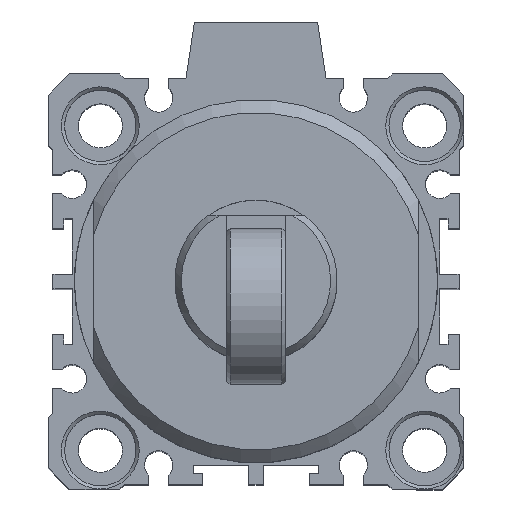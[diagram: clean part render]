
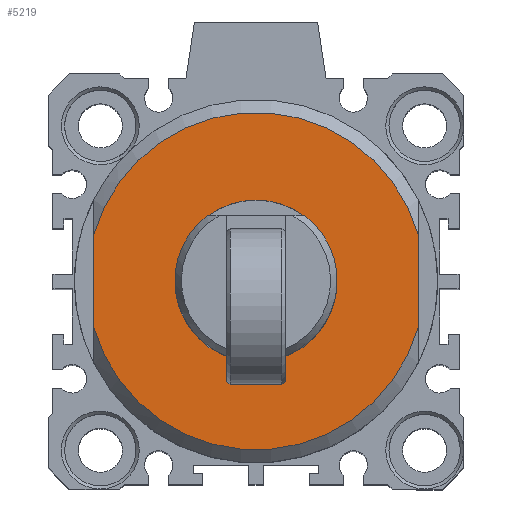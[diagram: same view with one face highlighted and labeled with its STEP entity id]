
A CAD part, top view. The second image highlights one B-rep face of the part: STEP entity #5219.
In plain terms, the highlighted planar face has unit normal (0, 0, 1).
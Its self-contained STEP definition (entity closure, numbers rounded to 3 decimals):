
#330=CARTESIAN_POINT('',(-14.557,11.794,112.));
#331=VERTEX_POINT('',#330);
#338=CARTESIAN_POINT('',(0.443,11.794,112.));
#339=VERTEX_POINT('',#338);
#340=CARTESIAN_POINT('',(-7.057,1.794,112.));
#341=DIRECTION('',(0.0,0.0,-1.0));
#342=DIRECTION('',(0.0,1.0,0.0));
#343=AXIS2_PLACEMENT_3D('',#340,#341,#342);
#344=CIRCLE('',#343,12.5);
#345=EDGE_CURVE('',#339,#331,#344,.T.);
#5168=CARTESIAN_POINT('',(-7.057,22.044,112.));
#5169=DIRECTION('',(0.0,0.0,1.0));
#5170=DIRECTION('',(1.0,0.0,0.0));
#5171=AXIS2_PLACEMENT_3D('',#5168,#5169,#5170);
#5172=PLANE('',#5171);
#5173=CARTESIAN_POINT('',(-32.057,8.936,112.));
#5174=VERTEX_POINT('',#5173);
#5175=CARTESIAN_POINT('',(17.943,8.936,112.));
#5176=VERTEX_POINT('',#5175);
#5177=CARTESIAN_POINT('',(-7.057,1.794,112.));
#5178=DIRECTION('',(0.0,0.0,-1.0));
#5179=DIRECTION('',(0.0,1.0,0.0));
#5180=AXIS2_PLACEMENT_3D('',#5177,#5178,#5179);
#5181=CIRCLE('',#5180,26.);
#5182=EDGE_CURVE('',#5174,#5176,#5181,.T.);
#5183=ORIENTED_EDGE('',*,*,#5182,.F.);
#5184=CARTESIAN_POINT('',(-32.057,-5.347,112.));
#5185=VERTEX_POINT('',#5184);
#5186=CARTESIAN_POINT('',(-32.057,8.936,112.));
#5187=DIRECTION('',(0.0,-1.0,0.0));
#5188=VECTOR('',#5187,14.283);
#5189=LINE('',#5186,#5188);
#5190=EDGE_CURVE('',#5174,#5185,#5189,.T.);
#5191=ORIENTED_EDGE('',*,*,#5190,.T.);
#5192=CARTESIAN_POINT('',(17.943,-5.347,112.));
#5193=VERTEX_POINT('',#5192);
#5194=CARTESIAN_POINT('',(-7.057,1.794,112.));
#5195=DIRECTION('',(0.0,0.0,-1.0));
#5196=DIRECTION('',(0.0,-1.0,0.0));
#5197=AXIS2_PLACEMENT_3D('',#5194,#5195,#5196);
#5198=CIRCLE('',#5197,26.);
#5199=EDGE_CURVE('',#5193,#5185,#5198,.T.);
#5200=ORIENTED_EDGE('',*,*,#5199,.F.);
#5201=CARTESIAN_POINT('',(17.943,-5.347,112.));
#5202=DIRECTION('',(0.0,1.0,0.0));
#5203=VECTOR('',#5202,14.283);
#5204=LINE('',#5201,#5203);
#5205=EDGE_CURVE('',#5193,#5176,#5204,.T.);
#5206=ORIENTED_EDGE('',*,*,#5205,.T.);
#5207=EDGE_LOOP('',(#5183,#5191,#5200,#5206));
#5208=FACE_OUTER_BOUND('',#5207,.T.);
#5209=CARTESIAN_POINT('',(-7.057,1.794,112.));
#5210=DIRECTION('',(0.0,0.0,-1.0));
#5211=DIRECTION('',(0.0,1.0,0.0));
#5212=AXIS2_PLACEMENT_3D('',#5209,#5210,#5211);
#5213=CIRCLE('',#5212,12.5);
#5214=EDGE_CURVE('',#331,#339,#5213,.T.);
#5215=ORIENTED_EDGE('',*,*,#5214,.T.);
#5216=ORIENTED_EDGE('',*,*,#345,.T.);
#5217=EDGE_LOOP('',(#5215,#5216));
#5218=FACE_BOUND('',#5217,.T.);
#5219=ADVANCED_FACE('',(#5208,#5218),#5172,.T.);
